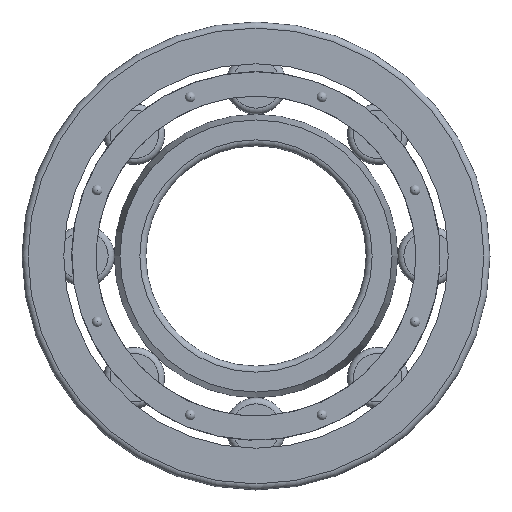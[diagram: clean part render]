
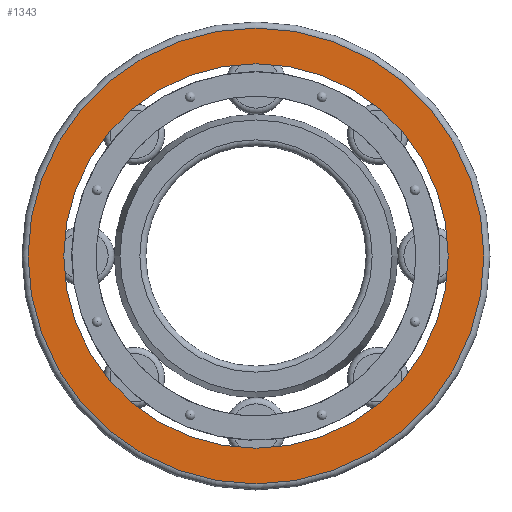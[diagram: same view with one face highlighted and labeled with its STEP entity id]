
A CAD part, left-side view. The second image highlights one B-rep face of the part: STEP entity #1343.
In plain terms, the highlighted planar face has unit normal (-1, 0, 0).
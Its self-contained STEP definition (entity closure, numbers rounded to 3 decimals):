
#192=PLANE('',#1452);
#277=FACE_BOUND('',#457,.T.);
#356=FACE_OUTER_BOUND('',#456,.T.);
#456=EDGE_LOOP('',(#1034));
#457=EDGE_LOOP('',(#1035));
#592=CIRCLE('',#1434,34.917);
#601=CIRCLE('',#1451,41.4);
#720=VERTEX_POINT('',#2194);
#729=VERTEX_POINT('',#2220);
#848=EDGE_CURVE('',#720,#720,#592,.T.);
#857=EDGE_CURVE('',#729,#729,#601,.T.);
#1034=ORIENTED_EDGE('',*,*,#857,.T.);
#1035=ORIENTED_EDGE('',*,*,#848,.F.);
#1343=ADVANCED_FACE('',(#356,#277),#192,.T.);
#1434=AXIS2_PLACEMENT_3D('',#2195,#1693,#1694);
#1451=AXIS2_PLACEMENT_3D('',#2221,#1727,#1728);
#1452=AXIS2_PLACEMENT_3D('',#2222,#1729,#1730);
#1693=DIRECTION('center_axis',(-1.,0.,0.));
#1694=DIRECTION('ref_axis',(0.,0.,1.));
#1727=DIRECTION('center_axis',(-1.,0.,0.));
#1728=DIRECTION('ref_axis',(0.,0.,1.));
#1729=DIRECTION('center_axis',(-1.,0.,0.));
#1730=DIRECTION('ref_axis',(0.,0.,1.));
#2194=CARTESIAN_POINT('',(-3.5,-34.917,0.));
#2195=CARTESIAN_POINT('Origin',(-3.5,0.,0.));
#2220=CARTESIAN_POINT('',(-3.5,-41.4,0.));
#2221=CARTESIAN_POINT('Origin',(-3.5,0.,0.));
#2222=CARTESIAN_POINT('Origin',(-3.5,-34.917,0.));
